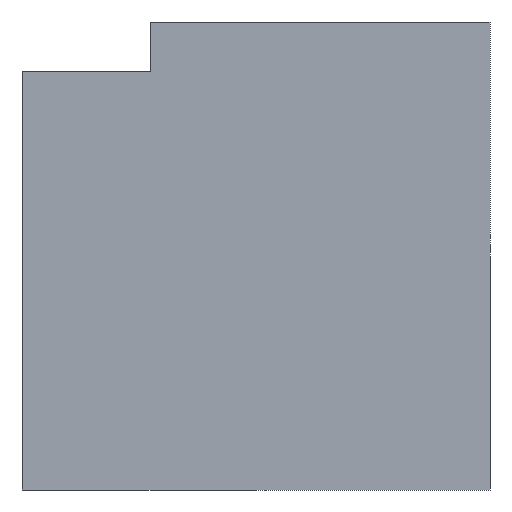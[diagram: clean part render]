
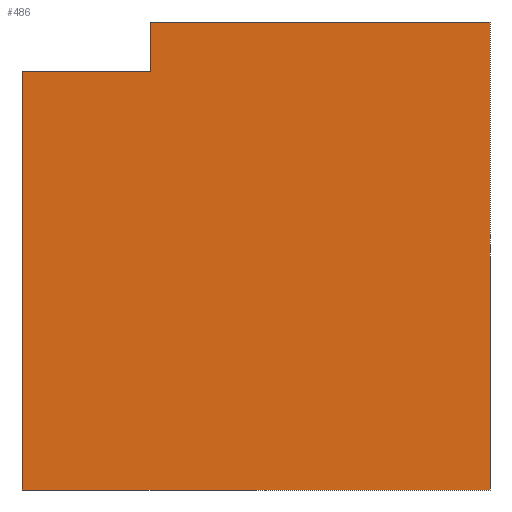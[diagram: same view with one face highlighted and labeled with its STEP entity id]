
A CAD part, left-side view. The second image highlights one B-rep face of the part: STEP entity #486.
In plain terms, the highlighted planar face has unit normal (-1, 0, 0).
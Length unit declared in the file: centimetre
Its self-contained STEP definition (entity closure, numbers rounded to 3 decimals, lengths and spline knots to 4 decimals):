
#2 = EDGE_CURVE ( 'NONE', #69, #515, #492, .T. ) ;
#5 = CARTESIAN_POINT ( 'NONE',  ( 0., 1000., 0. ) ) ;
#22 = ORIENTED_EDGE ( 'NONE', *, *, #193, .T. ) ;
#35 = LINE ( 'NONE', #451, #317 ) ;
#38 = CARTESIAN_POINT ( 'NONE',  ( 0., 1000., 0. ) ) ;
#49 = VERTEX_POINT ( 'NONE', #420 ) ;
#63 = AXIS2_PLACEMENT_3D ( 'NONE', #368, #116, #328 ) ;
#69 = VERTEX_POINT ( 'NONE', #186 ) ;
#70 = VERTEX_POINT ( 'NONE', #153 ) ;
#76 = DIRECTION ( 'NONE',  ( 0., 0., -1. ) ) ;
#80 = EDGE_CURVE ( 'NONE', #49, #70, #367, .T. ) ;
#116 = DIRECTION ( 'NONE',  ( 1., 0., 0. ) ) ;
#117 = DIRECTION ( 'NONE',  ( 0., 0., -1. ) ) ;
#118 = EDGE_CURVE ( 'NONE', #49, #69, #406, .T. ) ;
#131 = CARTESIAN_POINT ( 'NONE',  ( 0., 1000., 895.0299 ) ) ;
#149 = VECTOR ( 'NONE', #495, 100. ) ;
#153 = CARTESIAN_POINT ( 'NONE',  ( 0., 724.416, 895.0299 ) ) ;
#158 = EDGE_CURVE ( 'NONE', #252, #168, #35, .T. ) ;
#159 = FACE_OUTER_BOUND ( 'NONE', #321, .T. ) ;
#168 = VERTEX_POINT ( 'NONE', #38 ) ;
#186 = CARTESIAN_POINT ( 'NONE',  ( 0., 0., 1000. ) ) ;
#193 = EDGE_CURVE ( 'NONE', #168, #515, #303, .T. ) ;
#199 = LINE ( 'NONE', #302, #269 ) ;
#240 = CARTESIAN_POINT ( 'NONE',  ( 0., 1000., 1000. ) ) ;
#252 = VERTEX_POINT ( 'NONE', #131 ) ;
#256 = EDGE_CURVE ( 'NONE', #70, #252, #199, .T. ) ;
#265 = ORIENTED_EDGE ( 'NONE', *, *, #118, .F. ) ;
#269 = VECTOR ( 'NONE', #338, 100. ) ;
#302 = CARTESIAN_POINT ( 'NONE',  ( 0., 724.416, 895.0299 ) ) ;
#303 = LINE ( 'NONE', #5, #525 ) ;
#309 = ORIENTED_EDGE ( 'NONE', *, *, #256, .T. ) ;
#312 = VECTOR ( 'NONE', #117, 100. ) ;
#317 = VECTOR ( 'NONE', #417, 100. ) ;
#321 = EDGE_LOOP ( 'NONE', ( #431, #309, #462, #22, #403, #265 ) ) ;
#323 = PLANE ( 'NONE',  #63 ) ;
#328 = DIRECTION ( 'NONE',  ( 0., 0., -1. ) ) ;
#329 = CARTESIAN_POINT ( 'NONE',  ( 0., 724.416, 895.0299 ) ) ;
#338 = DIRECTION ( 'NONE',  ( 0., 1., 0. ) ) ;
#367 = LINE ( 'NONE', #329, #312 ) ;
#368 = CARTESIAN_POINT ( 'NONE',  ( 0., 1000., 1000. ) ) ;
#403 = ORIENTED_EDGE ( 'NONE', *, *, #2, .F. ) ;
#406 = LINE ( 'NONE', #240, #149 ) ;
#417 = DIRECTION ( 'NONE',  ( 0., 0., -1. ) ) ;
#420 = CARTESIAN_POINT ( 'NONE',  ( 0., 724.416, 1000. ) ) ;
#431 = ORIENTED_EDGE ( 'NONE', *, *, #80, .T. ) ;
#434 = VECTOR ( 'NONE', #76, 100. ) ;
#445 = CARTESIAN_POINT ( 'NONE',  ( 0., 0., 1000. ) ) ;
#451 = CARTESIAN_POINT ( 'NONE',  ( 0., 1000., 1000. ) ) ;
#462 = ORIENTED_EDGE ( 'NONE', *, *, #158, .T. ) ;
#486 = ADVANCED_FACE ( 'NONE', ( #159 ), #323, .F. ) ;
#492 = LINE ( 'NONE', #445, #434 ) ;
#495 = DIRECTION ( 'NONE',  ( 0., -1., 0. ) ) ;
#496 = CARTESIAN_POINT ( 'NONE',  ( 0., 0., 0. ) ) ;
#508 = DIRECTION ( 'NONE',  ( 0., -1., 0. ) ) ;
#515 = VERTEX_POINT ( 'NONE', #496 ) ;
#525 = VECTOR ( 'NONE', #508, 100. ) ;
